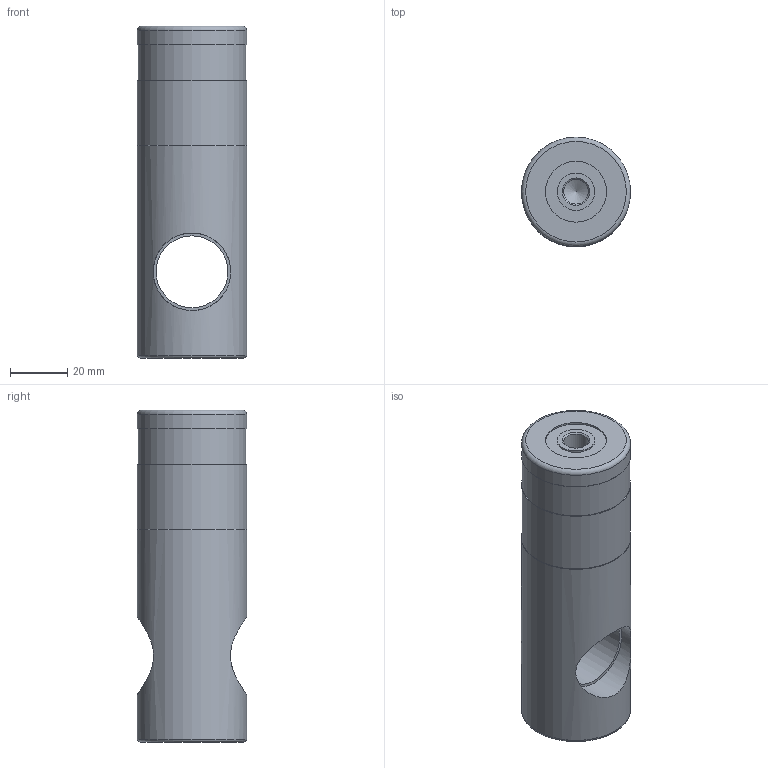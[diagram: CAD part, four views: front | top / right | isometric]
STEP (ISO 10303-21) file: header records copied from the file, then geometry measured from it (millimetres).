
FILE_DESCRIPTION(('STEP AP242'),'1');
FILE_NAME('A.6025 Feststellpatrone.stp','2026-04-23T09:35:00',(' '),(' '),'Spatial InterOp 3D',' ',' ');
FILE_SCHEMA(('AP242_MANAGED_MODEL_BASED_3D_ENGINEERING_MIM_LF {1 0 10303 442 1 1 4}'));
Length unit declared in the file: millimetre
Products named in the file (1): A.6025 Feststellpatrone
Bounding box: 38 x 38 x 115.5 mm (x, y, z)
Volume: 110874.7 mm3; surface area: 17933.7 mm2
Topology: 1 solids, 1 shells, 25 faces, 45 edges, 28 vertices
Faces by surface type: cylinder 11, plane 8, cone 4, torus 2
Full cylindrical faces by diameter (mm): 8.566 x2, 13 x1, 21.2 x1, 25 x1, 27 x2, 37.5 x1, 38 x3
Entity records: 1003 total; most frequent: CARTESIAN_POINT 283, DIRECTION 98, EDGE_LOOP 50, ORIENTED_EDGE 50, AXIS2_PLACEMENT_3D 49, FACE_OUTER_BOUND 38, STYLED_ITEM 26, PRESENTATION_STYLE_ASSIGNMENT 26
